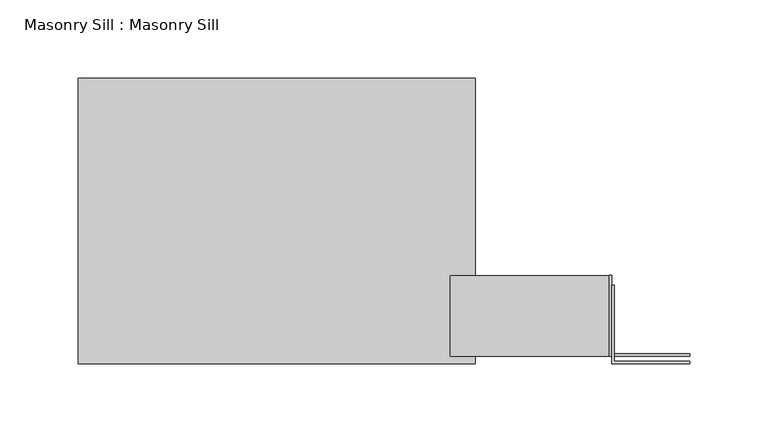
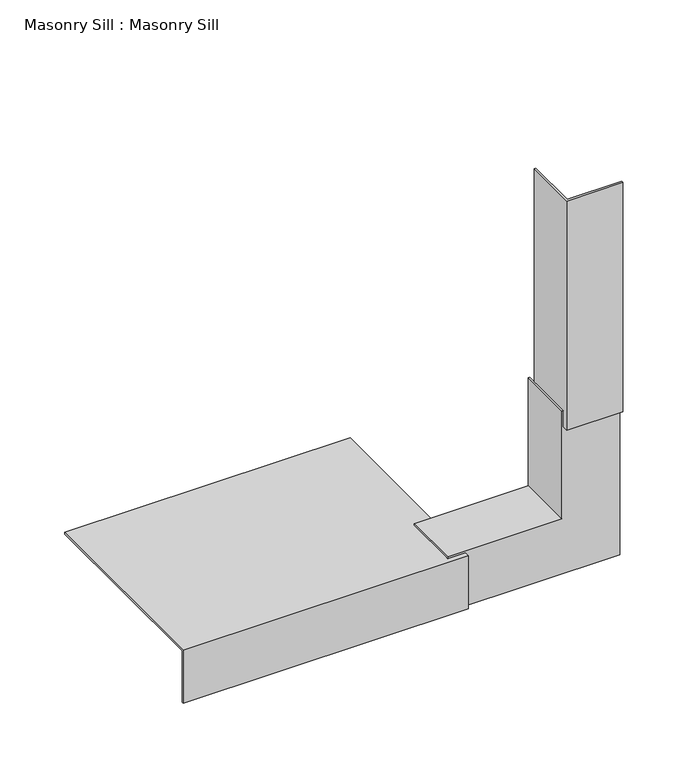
"""IFC4 building model written with IfcOpenShell, lengths in millimetres: proxy geometry, Masonry Sill : Masonry Sill."""

import ifcopenshell
import ifcopenshell.guid

model = None  # the IFC model being written
_history = None  # IfcOwnerHistory: only IFC2X3 demands one
_inside = {}  # id of a spatial element -> (the spatial element, [elements in it])
_under = {}  # id of a project, library or spatial element -> (it, [spatial elements below it])
_declared = {}  # id of a project -> (the project, [libraries it declares])
_typed = {}  # id of a type object -> (the type object, [elements of that type])
_made_of = {}  # id of a material, layer set ... -> (it, [elements and type objects made of it])


def new_model(schema):
    """Start an empty IFC model of exactly this schema.

    Asked for "IFC4X3", IfcOpenShell would pick the latest addendum, in which some entities
    have other attributes; the version numbers below select the first issue.
    IFC2X3 requires an IfcOwnerHistory on every rooted entity: one is made here for all.
    """
    global model, _history
    if schema == "IFC4X3":
        model = ifcopenshell.file(schema_version=(4, 3, 0, 0))
    else:
        model = ifcopenshell.file(schema=schema)
    _inside.clear()
    _under.clear()
    _declared.clear()
    _typed.clear()
    _made_of.clear()
    _history = None
    if model.schema == "IFC2X3":
        org = make("IfcOrganization", Name="unknown")
        user = make(
            "IfcPersonAndOrganization",
            ThePerson=make("IfcPerson", FamilyName="unknown"),
            TheOrganization=org,
        )
        app = make(
            "IfcApplication",
            ApplicationDeveloper=org,
            Version="unknown",
            ApplicationFullName="unknown",
            ApplicationIdentifier="unknown",
        )
        _history = make(
            "IfcOwnerHistory",
            OwningUser=user,
            OwningApplication=app,
            ChangeAction="ADDED",
            CreationDate=0,
        )
    return model


def make(cls, **values):
    """One entity of the class cls with the attributes given. An attribute that is None is left unset."""
    return model.create_entity(
        cls, **{name: value for name, value in values.items() if value is not None}
    )


def rooted(cls, **values):
    """An entity with a GlobalId (a new one), such as an element, a storey or a relation."""
    return make(cls, GlobalId=ifcopenshell.guid.new(), OwnerHistory=_history, **values)


def si_unit(unit_type, name, prefix=None):
    """IfcSIUnit, for example si_unit("LENGTHUNIT", "METRE", prefix="MILLI")."""
    return make("IfcSIUnit", UnitType=unit_type, Prefix=prefix, Name=name)


def assignment(units):
    """IfcUnitAssignment: the units of a project."""
    return None if units is None else make("IfcUnitAssignment", Units=units)


def point(xyz):
    """IfcCartesianPoint."""
    return None if xyz is None else make("IfcCartesianPoint", Coordinates=xyz)


def direction(xyz):
    """IfcDirection."""
    return None if xyz is None else make("IfcDirection", DirectionRatios=xyz)


def frame(location, z_axis=None, x_axis=None):
    """IfcAxis2Placement3D, a coordinate frame: its origin and axes. An axis left out is left unset."""
    return make(
        "IfcAxis2Placement3D",
        Location=point(location),
        Axis=direction(z_axis),
        RefDirection=direction(x_axis),
    )


def origin():
    """The frame at (0, 0, 0) with its axes left unset."""
    return frame((0.0, 0.0, 0.0))


def place(relative_to, where):
    """IfcLocalPlacement: puts the frame where relative to a parent placement (None: the world)."""
    return make(
        "IfcLocalPlacement", PlacementRelTo=relative_to, RelativePlacement=where
    )


def context(
    kind, dimensions, precision=None, world=None, true_north=None, identifier=None
):
    """IfcGeometricRepresentationContext, for example the 3D "Model" context."""
    return make(
        "IfcGeometricRepresentationContext",
        ContextIdentifier=identifier,
        ContextType=kind,
        CoordinateSpaceDimension=dimensions,
        Precision=precision,
        WorldCoordinateSystem=world,
        TrueNorth=true_north,
    )


def project(units=None, contexts=None):
    """IfcProject with its units and contexts."""
    return rooted(
        "IfcProject",
        Name="project",
        RepresentationContexts=contexts,
        UnitsInContext=assignment(units),
    )


def spatial(cls, under=None, at=None, **own):
    """A site, building, storey or space (cls), placed at a placement, below another one or the project."""
    s = rooted(cls, ObjectPlacement=at, **own)
    if under is not None:
        _under.setdefault(under.id(), (under, []))[1].append(s)
    return s


def polyline(points):
    """IfcPolyline through the points."""
    return make("IfcPolyline", Points=[point(p) for p in points])


def outline(outer, holes=None, kind="AREA"):
    """IfcArbitraryClosedProfileDef: a profile drawn as a closed curve; with holes, ...WithVoids."""
    if holes is None:
        return make("IfcArbitraryClosedProfileDef", ProfileType=kind, OuterCurve=outer)
    return make(
        "IfcArbitraryProfileDefWithVoids",
        ProfileType=kind,
        OuterCurve=outer,
        InnerCurves=holes,
    )


def extrude(swept, where, along, depth):
    """IfcExtrudedAreaSolid: the profile swept, set in the frame where, extruded along a direction by depth."""
    return make(
        "IfcExtrudedAreaSolid",
        SweptArea=swept,
        Position=where,
        ExtrudedDirection=direction(along),
        Depth=depth,
    )


def faces_of(points, faces, orient=None, outer=None):
    """IfcFace entities. A face is a list of loops; a loop is a list of indices into points, from 0.

    orient and outer hold one flag for each loop. By default every Orientation is true, the
    first loop of a face is its IfcFaceOuterBound and the others are IfcFaceBound.
    """
    made = []
    for i, loops in enumerate(faces):
        bounds = []
        for j, loop in enumerate(loops):
            is_outer = j == 0 if outer is None else outer[i][j]
            bounds.append(
                make(
                    "IfcFaceOuterBound" if is_outer else "IfcFaceBound",
                    Bound=make("IfcPolyLoop", Polygon=[points[k] for k in loop]),
                    Orientation=True if orient is None else orient[i][j],
                )
            )
        made.append(make("IfcFace", Bounds=bounds))
    return made


def faceted_brep(points, faces, orient=None, outer=None, voids=None):
    """IfcFacetedBrep: a solid bounded by flat faces; with voids (closed shells), ...WithVoids."""
    shared = [point(p) for p in points]
    hull = make("IfcClosedShell", CfsFaces=faces_of(shared, faces, orient, outer))
    if voids is None:
        return make("IfcFacetedBrep", Outer=hull)
    return make(
        "IfcFacetedBrepWithVoids",
        Outer=hull,
        Voids=[
            make(cls, CfsFaces=faces_of(shared, fs, o, b)) for cls, fs, o, b in voids
        ],
    )


def shape(context_of_items, identifier, shape_type, items):
    """IfcShapeRepresentation: the items that make up one representation, for example the "Body"."""
    return make(
        "IfcShapeRepresentation",
        ContextOfItems=context_of_items,
        RepresentationIdentifier=identifier,
        RepresentationType=shape_type,
        Items=items,
    )


def source(mapping_origin, context_of_items, identifier, shape_type, items):
    """IfcRepresentationMap: a shape defined once, which mapped items show again and again."""
    return make(
        "IfcRepresentationMap",
        MappingOrigin=mapping_origin,
        MappedRepresentation=shape(context_of_items, identifier, shape_type, items),
    )


def transform(
    local_origin,
    x_axis=None,
    y_axis=None,
    z_axis=None,
    scale=None,
    scale2=None,
    scale3=None,
    uniform=True,
):
    """IfcCartesianTransformationOperator3D, or its non-uniform kind. x_axis, y_axis, z_axis: its Axis1, 2, 3."""
    if uniform:
        return make(
            "IfcCartesianTransformationOperator3D",
            Axis1=direction(x_axis),
            Axis2=direction(y_axis),
            LocalOrigin=point(local_origin),
            Scale=scale,
            Axis3=direction(z_axis),
        )
    return make(
        "IfcCartesianTransformationOperator3DnonUniform",
        Axis1=direction(x_axis),
        Axis2=direction(y_axis),
        LocalOrigin=point(local_origin),
        Scale=scale,
        Axis3=direction(z_axis),
        Scale2=scale2,
        Scale3=scale3,
    )


def mapped(mapping_source, mapping_target):
    """IfcMappedItem: shows the shape of a source again, moved by a transform."""
    return make(
        "IfcMappedItem", MappingSource=mapping_source, MappingTarget=mapping_target
    )


def made_of(thing, what):
    """Note that an element or type object is made of a material, layer set ...; save() writes the relation."""
    if what is not None:
        _made_of.setdefault(what.id(), (what, []))[1].append(thing)
    return thing


def element(
    cls,
    number,
    at=None,
    inside=None,
    cuts=None,
    type_object=None,
    material=None,
    context=None,
    identifier="Body",
    shape_type=None,
    held_by="IfcProductDefinitionShape",
    body=None,
    shapes=None,
    **own,
):
    """One element of the class cls, such as IfcWall. Its Tag is "e" and its number.

    at: its placement. inside: the storey or other place that contains it. cuts: it is an
    opening in that element (IfcRelVoidsElement). A single representation is given by context,
    identifier, shape_type and body (its items); several are given by shapes. held_by: the class
    of the entity that holds the representations. save() writes the other relations.
    """
    e = rooted(cls, Tag="e%d" % number, ObjectPlacement=at, **own)
    if body is not None:
        shapes = [shape(context, identifier, shape_type, body)]
    if shapes is not None:
        e.Representation = make(held_by, Representations=shapes)
    if inside is not None:
        _inside.setdefault(inside.id(), (inside, []))[1].append(e)
    if cuts is not None:
        rooted(
            "IfcRelVoidsElement", RelatingBuildingElement=cuts, RelatedOpeningElement=e
        )
    if type_object is not None:
        _typed.setdefault(type_object.id(), (type_object, []))[1].append(e)
    return made_of(e, material)


def aggregate(whole, parts):
    """IfcRelAggregates: a whole, such as a stair, and the parts it consists of."""
    return rooted("IfcRelAggregates", RelatingObject=whole, RelatedObjects=parts)


def save(model, path):
    """Write the relations noted so far, then the file.

    IfcRelAggregates (storeys below a building ...), IfcRelContainedInSpatialStructure (elements
    in a storey), IfcRelDefinesByType, IfcRelAssociatesMaterial and IfcRelDeclares: one each for
    every whole, place, type object, material and project.
    """
    for whole, parts in _under.values():
        aggregate(whole, parts)
    for where, things in _inside.values():
        rooted(
            "IfcRelContainedInSpatialStructure",
            RelatedElements=things,
            RelatingStructure=where,
        )
    for kind, things in _typed.values():
        rooted("IfcRelDefinesByType", RelatedObjects=things, RelatingType=kind)
    for what, things in _made_of.values():
        rooted("IfcRelAssociatesMaterial", RelatedObjects=things, RelatingMaterial=what)
    for by, libraries in _declared.values():
        rooted("IfcRelDeclares", RelatingContext=by, RelatedDefinitions=libraries)
    model.write(path)


def masonry_sill_masonry_sill_3f966eea(model_context):
    return source(origin(), model_context, "Body", "SolidModel", [
        extrude(outline(polyline([(26855.8851773, 626.0441297), (26855.8851773, 676.0489454), (26857.4726773, 676.0489454), (26857.4726773, 627.6316297), (26905.8899931, 627.6316297), (26905.8899931, 626.0441297), (26855.8851773, 626.0441297)])), frame((0.0, 0.0, 546.1), z_axis=(0.0, 0.0, 1.0), x_axis=(1.0, 0.0, 0.0)), (0.0, 0.0, 1.0), 215.9),
        faceted_brep([(26752.6976773, 630.8066297, 408.7826842), (26752.6976773, 630.8066297, 460.375), (26752.6976773, 682.3989454, 460.375), (26752.6976773, 682.3989454, 458.7875), (26752.6976773, 632.3941297, 458.7875), (26752.6976773, 632.3941297, 408.7826842), (26905.8899931, 632.3941297, 408.7826842), (26905.8899931, 630.8066297, 408.7826842), (26855.8851773, 632.3941297, 458.7875), (26855.8851773, 632.3941297, 561.975), (26905.8899931, 632.3941297, 561.975), (26855.8851773, 682.3989454, 458.7875), (26854.2976773, 682.3989454, 460.375), (26854.2976773, 682.3989454, 561.975), (26855.8851773, 682.3989454, 561.975), (26854.2976773, 630.8066297, 460.375), (26905.8899931, 630.8066297, 561.975), (26854.2976773, 630.8066297, 561.975)], [[[0, 1, 2, 3, 4, 5]], [[0, 5, 6, 7]], [[5, 4, 8, 9, 10, 6]], [[4, 3, 11, 8]], [[3, 2, 12, 13, 14, 11]], [[2, 1, 15, 12]], [[1, 0, 7, 16, 17, 15]], [[16, 10, 9, 14, 13, 17]], [[7, 6, 10, 16]], [[8, 11, 14, 9]], [[12, 15, 17, 13]]]),
        extrude(outline(polyline([(626.0441297, 458.7875), (808.6066297, 458.7875), (808.6066297, 457.2), (627.6316297, 457.2), (627.6316297, 408.7826842), (626.0441297, 408.7826842), (626.0441297, 458.7875)])), frame((26514.5726773, 0.0, 0.0), z_axis=(1.0, 0.0, 0.0), x_axis=(0.0, 1.0, 0.0)), (0.0, 0.0, 1.0), 254.0),
    ])


if __name__ == "__main__":
    model = new_model("IFC4")
    model_context = context("Model", 3, world=origin())
    ifc_project = project(units=[si_unit("LENGTHUNIT", "METRE", prefix="MILLI")], contexts=[model_context])
    site = spatial("IfcSite", under=ifc_project)
    building = spatial("IfcBuilding", under=site)
    placement = place(None, origin())
    masonry_sill_masonry_sill_shape = masonry_sill_masonry_sill_3f966eea(model_context)
    element("IfcBuildingElementProxy", 1, Name="Masonry Sill : Masonry Sill", ObjectType="Masonry Sill : Masonry Sill", at=placement, inside=building, context=model_context, shape_type="MappedRepresentation", body=[
        mapped(masonry_sill_masonry_sill_shape, transform((0.0, 0.0, 0.0), x_axis=(1.0, 0.0, 0.0), y_axis=(0.0, 1.0, 0.0), z_axis=(0.0, 0.0, 1.0))),
    ])
    save(model, "model.ifc")
